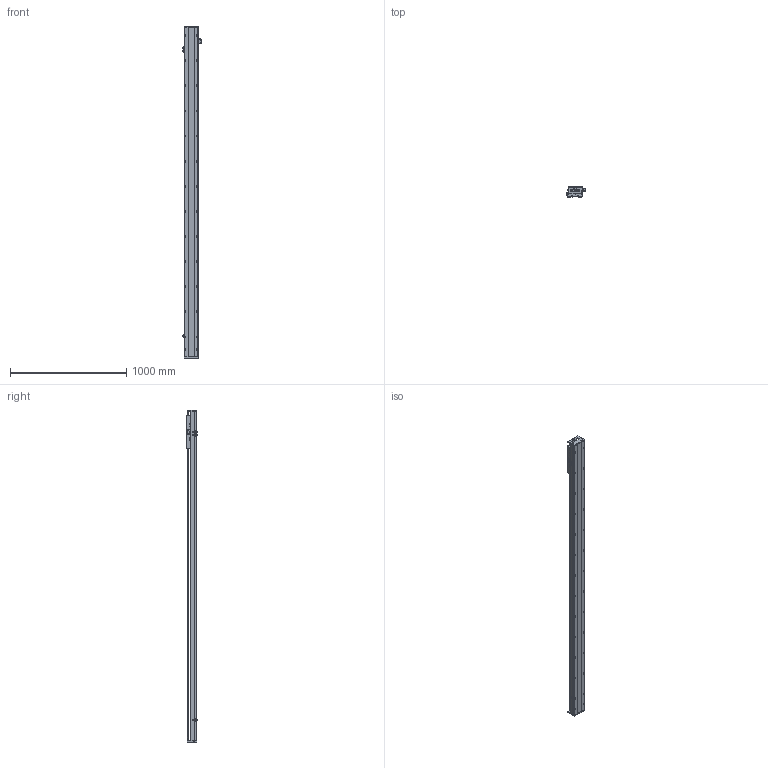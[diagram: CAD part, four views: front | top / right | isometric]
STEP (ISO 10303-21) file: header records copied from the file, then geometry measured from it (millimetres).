
FILE_DESCRIPTION (( 'STEP AP203' ), '1' );
FILE_NAME ('SKR12S-C2-S2476（简）.STEP', '2022-09-26T05:39:42', ( '' ), ( '' ), 'SwSTEP 2.0', 'SolidWorks 2018', '' );
FILE_SCHEMA (( 'CONFIG_CONTROL_DESIGN' ));
Length unit declared in the file: millimetre
Products named in the file (8): SKR12滑台-280L（简）; 覜茼え; SKR12S-C2-S2476（简）; 棠掑假蚾輸; EE-SX672; SKR12菁釱-C2-S2476(潠); SKR12耜啣; SIKO棠掑
Assembly tree (10 placements, depth 2):
  SKR12S-C2-S2476（简）
    SKR12菁釱-C2-S2476(潠)
    SKR12滑台-280L（简）
    SKR12耜啣  x2
    棠掑假蚾輸
    SIKO棠掑
    EE-SX672  x3
    覜茼え
Bounding box: 162.7 x 87.3 x 2856 mm (x, y, z)
Volume: 12411356.3 mm3; surface area: 1928867.6 mm2
Topology: 11 solids, 11 shells, 1192 faces, 3207 edges, 2021 vertices
Faces by surface type: cylinder 594, plane 432, cone 166
Entity records: 34249 total; most frequent: CARTESIAN_POINT 7683, DIRECTION 5467, ORIENTED_EDGE 5314, EDGE_CURVE 2657, AXIS2_PLACEMENT_3D 2053, VERTEX_POINT 1725, LINE 1361, VECTOR 1361
